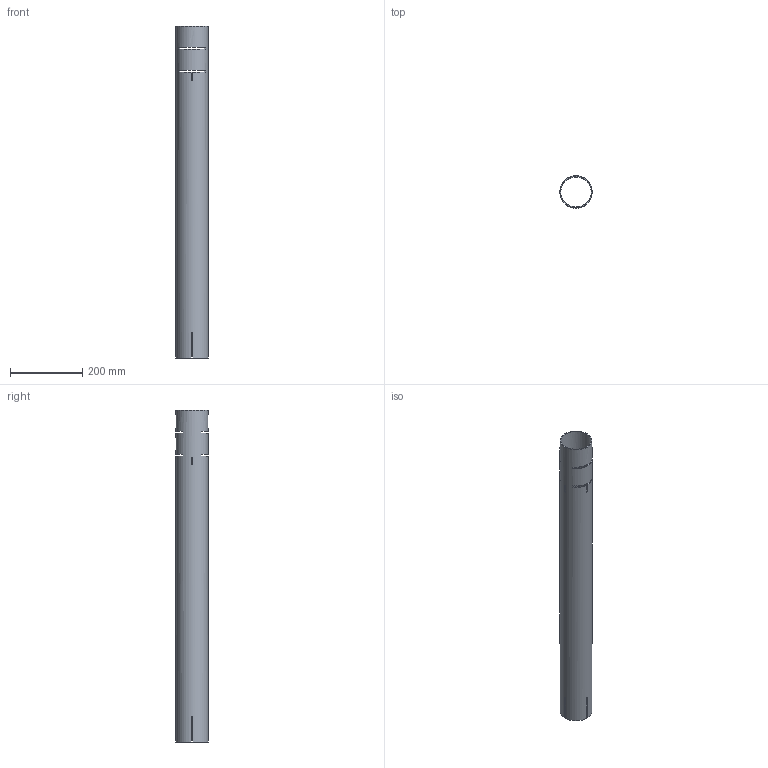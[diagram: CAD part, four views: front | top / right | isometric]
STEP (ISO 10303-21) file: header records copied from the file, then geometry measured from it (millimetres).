
FILE_DESCRIPTION(/* description */ (''),/* implementation_level */ '2;1');
FILE_NAME(/* name */ 'pipe.step',/* time_stamp */ '2026-05-21T00:02:07+09:00',/* author */ (''),/* organization */ (''),/* preprocessor_version */ 'ST-DEVELOPER v20.1',/* originating_system */ 'Autodesk Translation Framework v15.8.0.0',/* authorisation */ '');
FILE_SCHEMA (('AUTOMOTIVE_DESIGN { 1 0 10303 214 3 1 1 }'));
Length unit declared in the file: millimetre
Products named in the file (1): p
Bounding box: 89.1 x 89.1 x 922 mm (x, y, z)
Volume: 522410.6 mm3; surface area: 501819.8 mm2
Topology: 1 solids, 1 shells, 51 faces, 156 edges, 104 vertices
Faces by surface type: plane 49, cylinder 2
Full cylindrical faces by diameter (mm): 84.9 x1, 89.1 x1
Entity records: 1835 total; most frequent: DIRECTION 316, ORIENTED_EDGE 312, CARTESIAN_POINT 312, EDGE_CURVE 156, AXIS2_PLACEMENT_3D 108, VERTEX_POINT 104, LINE 100, VECTOR 100
